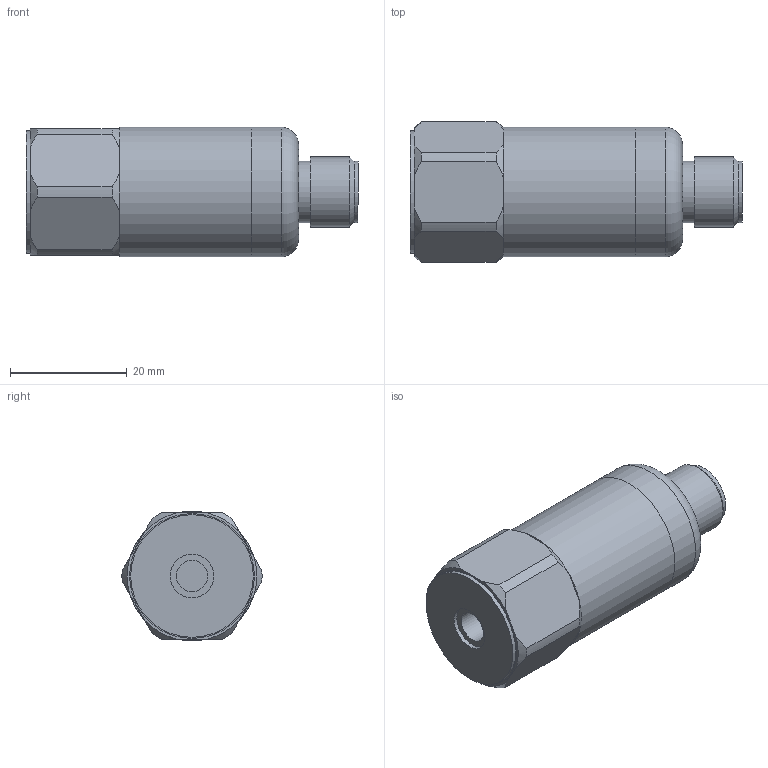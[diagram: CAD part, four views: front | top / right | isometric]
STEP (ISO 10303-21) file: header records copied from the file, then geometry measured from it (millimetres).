
FILE_DESCRIPTION(/* description */ (''),/* implementation_level */ '2;1');
FILE_NAME(/* name */ 'Z:\Engineering\Drawings\3D Library\Assemblies\Website\Premium Top\HS-150 Top M12\HS-150XXX5401.stp',/* time_stamp */ '2023-03-12T11:18:30+00:00',/* author */ ('Ricardo.Peneda'),/* organization */ (''),/* preprocessor_version */ 'ST-DEVELOPER v18.1',/* originating_system */ 'Autodesk Inventor 2021',/* authorisation */ '');
FILE_SCHEMA (('AUTOMOTIVE_DESIGN { 1 0 10303 214 3 1 1 }'));
Length unit declared in the file: inch
Products named in the file (1): HS-150XXX5401_Shrinkwrap_1
Bounding box: 56.89 x 23.99 x 22.2 mm (x, y, z)
Volume: 12852.5 mm3; surface area: 7113.7 mm2
Topology: 2 solids, 2 shells, 58 faces, 153 edges, 110 vertices
Faces by surface type: plane 27, cylinder 20, cone 10, torus 1
Full cylindrical faces by diameter (mm): 5.359 x1, 7.5 x1, 9.4 x2, 10.496 x1, 10.5 x1, 12 x1, 15.055 x1, 18 x1, 19.95 x1, 20 x1, 21 x1, 22.2 x2
Entity records: 1946 total; most frequent: CARTESIAN_POINT 369, DIRECTION 332, ORIENTED_EDGE 304, EDGE_CURVE 152, AXIS2_PLACEMENT_3D 145, VERTEX_POINT 110, CIRCLE 86, EDGE_LOOP 70
